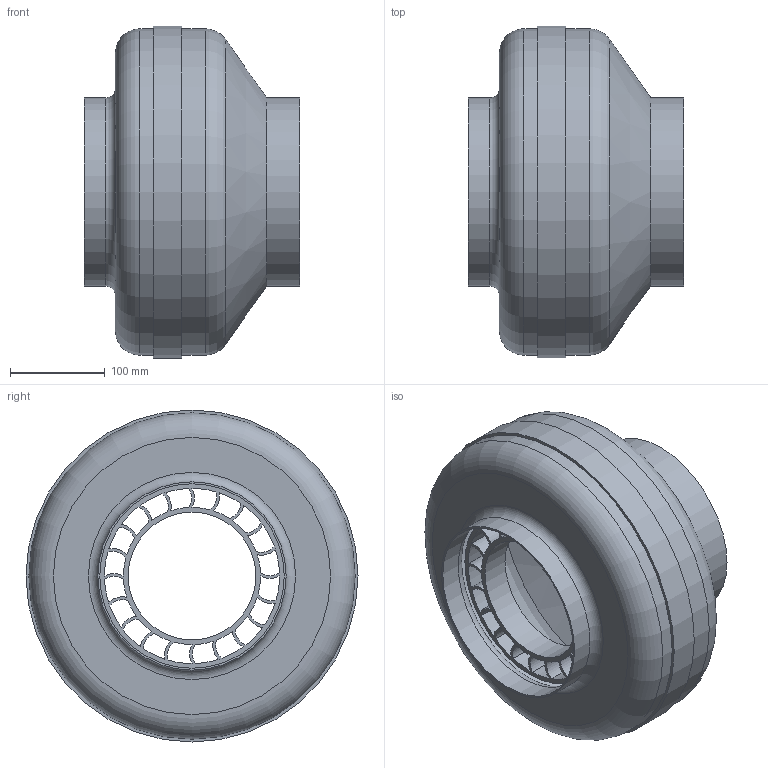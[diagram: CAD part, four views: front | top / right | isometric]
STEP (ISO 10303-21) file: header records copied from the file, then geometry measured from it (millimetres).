
FILE_DESCRIPTION(/* description */ (''),/* implementation_level */ '2;1');
FILE_NAME(/* name */ 'Z:\Output\RR 200 A-05658-023.stp',/* time_stamp */ '2017-05-05T16:58:48+02:00',/* author */ ('Engineering1'),/* organization */ (''),/* preprocessor_version */ 'ST-DEVELOPER v16.5',/* originating_system */ 'Autodesk Inventor 2017',/* authorisation */ '');
FILE_SCHEMA (('AUTOMOTIVE_DESIGN { 1 0 10303 214 3 1 1 }'));
Length unit declared in the file: millimetre
Products named in the file (1): RR-1
Bounding box: 228 x 351 x 351 mm (x, y, z)
Volume: 850407 mm3; surface area: 664256.1 mm2
Topology: 2 solids, 2 shells, 106 faces, 286 edges, 188 vertices
Faces by surface type: cylinder 90, plane 8, torus 6, cone 2
Full cylindrical faces by diameter (mm): 135 x1, 195 x3, 199 x2, 341 x1, 345 x2, 351 x1
Entity records: 3441 total; most frequent: DIRECTION 666, CARTESIAN_POINT 559, ORIENTED_EDGE 532, AXIS2_PLACEMENT_3D 293, EDGE_CURVE 266, CIRCLE 186, VERTEX_POINT 186, EDGE_LOOP 172
